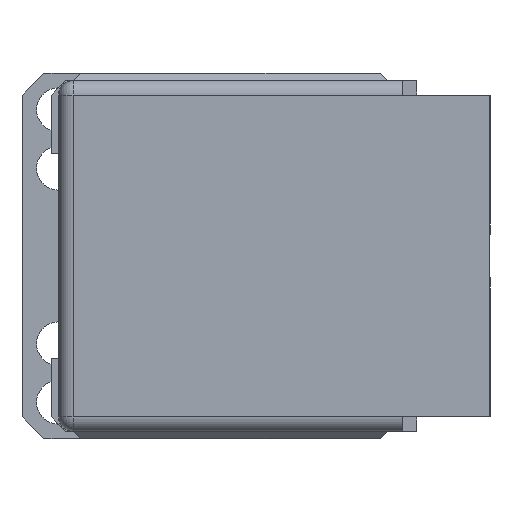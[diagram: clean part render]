
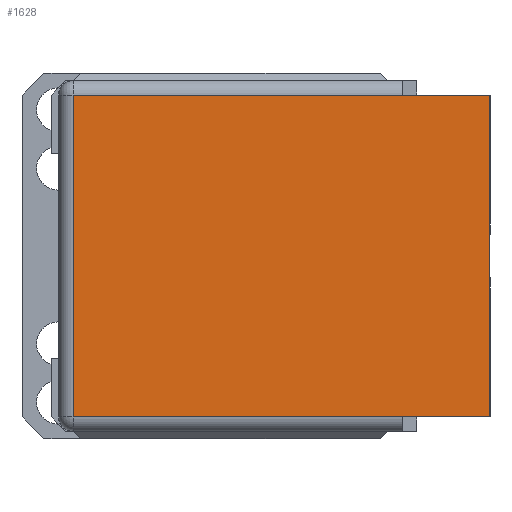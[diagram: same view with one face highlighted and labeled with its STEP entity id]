
A CAD part, left-side view. The second image highlights one B-rep face of the part: STEP entity #1628.
In plain terms, the highlighted planar face has unit normal (-1, 0, 0).
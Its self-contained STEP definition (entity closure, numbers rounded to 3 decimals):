
#85 = DIRECTION ( 'NONE',  ( 0., 0., -1. ) ) ;
#186 = ORIENTED_EDGE ( 'NONE', *, *, #2030, .T. ) ;
#706 = LINE ( 'NONE', #1788, #3680 ) ;
#1051 = CARTESIAN_POINT ( 'NONE',  ( 0., 28.5, -11. ) ) ;
#1072 = VECTOR ( 'NONE', #3678, 1000. ) ;
#1244 = LINE ( 'NONE', #4822, #3319 ) ;
#1257 = VECTOR ( 'NONE', #1547, 1000. ) ;
#1307 = DIRECTION ( 'NONE',  ( 1., 0., 0. ) ) ;
#1365 = VERTEX_POINT ( 'NONE', #4513 ) ;
#1380 = VECTOR ( 'NONE', #85, 1000. ) ;
#1547 = DIRECTION ( 'NONE',  ( 0., -1., 0. ) ) ;
#1601 = VERTEX_POINT ( 'NONE', #4774 ) ;
#1628 = ADVANCED_FACE ( 'NONE', ( #4122 ), #1692, .F. ) ;
#1647 = VERTEX_POINT ( 'NONE', #1711 ) ;
#1673 = CARTESIAN_POINT ( 'NONE',  ( 0., 6., -11. ) ) ;
#1692 = PLANE ( 'NONE',  #2793 ) ;
#1711 = CARTESIAN_POINT ( 'NONE',  ( 0., 0., 11. ) ) ;
#1788 = CARTESIAN_POINT ( 'NONE',  ( 0., 6., 11. ) ) ;
#1841 = ORIENTED_EDGE ( 'NONE', *, *, #2371, .T. ) ;
#1860 = ORIENTED_EDGE ( 'NONE', *, *, #2841, .F. ) ;
#2030 = EDGE_CURVE ( 'NONE', #3276, #1365, #3338, .T. ) ;
#2105 = VECTOR ( 'NONE', #3984, 1000. ) ;
#2172 = DIRECTION ( 'NONE',  ( 0., 1., 0. ) ) ;
#2186 = ORIENTED_EDGE ( 'NONE', *, *, #3802, .T. ) ;
#2218 = VERTEX_POINT ( 'NONE', #4230 ) ;
#2231 = LINE ( 'NONE', #1673, #2105 ) ;
#2371 = EDGE_CURVE ( 'NONE', #2218, #4203, #2413, .T. ) ;
#2413 = LINE ( 'NONE', #3944, #1380 ) ;
#2469 = ORIENTED_EDGE ( 'NONE', *, *, #3326, .T. ) ;
#2493 = DIRECTION ( 'NONE',  ( 0., -1., 0. ) ) ;
#2526 = CARTESIAN_POINT ( 'NONE',  ( 0., 0., 11. ) ) ;
#2793 = AXIS2_PLACEMENT_3D ( 'NONE', #3642, #1307, #4019 ) ;
#2841 = EDGE_CURVE ( 'NONE', #1601, #1647, #1244, .T. ) ;
#3276 = VERTEX_POINT ( 'NONE', #3953 ) ;
#3319 = VECTOR ( 'NONE', #2493, 1000. ) ;
#3326 = EDGE_CURVE ( 'NONE', #4203, #3276, #2231, .T. ) ;
#3338 = LINE ( 'NONE', #4649, #1257 ) ;
#3615 = EDGE_LOOP ( 'NONE', ( #1841, #2469, #186, #4898, #1860, #2186 ) ) ;
#3642 = CARTESIAN_POINT ( 'NONE',  ( 0., 6., 11. ) ) ;
#3678 = DIRECTION ( 'NONE',  ( 0., 0., 1. ) ) ;
#3680 = VECTOR ( 'NONE', #2172, 1000. ) ;
#3753 = EDGE_CURVE ( 'NONE', #1365, #1647, #4029, .T. ) ;
#3802 = EDGE_CURVE ( 'NONE', #1601, #2218, #706, .T. ) ;
#3944 = CARTESIAN_POINT ( 'NONE',  ( 0., 28.5, 11. ) ) ;
#3953 = CARTESIAN_POINT ( 'NONE',  ( 0., 6., -11. ) ) ;
#3984 = DIRECTION ( 'NONE',  ( 0., -1., 0. ) ) ;
#4019 = DIRECTION ( 'NONE',  ( 0., 0., -1. ) ) ;
#4029 = LINE ( 'NONE', #2526, #1072 ) ;
#4122 = FACE_OUTER_BOUND ( 'NONE', #3615, .T. ) ;
#4203 = VERTEX_POINT ( 'NONE', #1051 ) ;
#4230 = CARTESIAN_POINT ( 'NONE',  ( 0., 28.5, 11. ) ) ;
#4513 = CARTESIAN_POINT ( 'NONE',  ( 0., 0., -11. ) ) ;
#4649 = CARTESIAN_POINT ( 'NONE',  ( 0., 6., -11. ) ) ;
#4774 = CARTESIAN_POINT ( 'NONE',  ( 0., 6., 11. ) ) ;
#4822 = CARTESIAN_POINT ( 'NONE',  ( 0., 6., 11. ) ) ;
#4898 = ORIENTED_EDGE ( 'NONE', *, *, #3753, .T. ) ;
